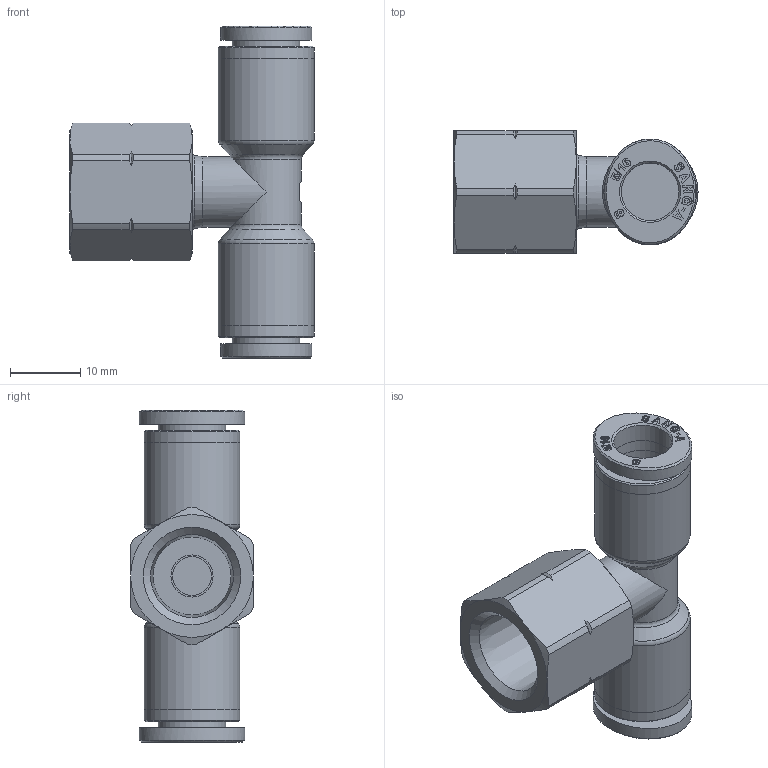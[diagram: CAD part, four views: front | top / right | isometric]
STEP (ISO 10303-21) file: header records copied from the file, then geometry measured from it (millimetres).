
FILE_DESCRIPTION((''),'2;1');
FILE_NAME('C:\Users\user0117\Desktop\김진일\G-FITTING INCH\5-16\PDF\G-FITTING INCH (STEP)\GPTF 5_16-N02U.stp','2020-04-22T08:48:05',('user0117'),(''),'Autodesk Inventor 2013','Autodesk Inventor 2013','');
FILE_SCHEMA(('AUTOMOTIVE_DESIGN { 1 0 10303 214 1 1 1 1 }'));
Length unit declared in the file: millimetre
Products named in the file (6): GPTF 5_16-N02U; GPLF BODY 5_16-N02U(BRASS); GPT BODY-08(PLASTIC); G-COLLAR 5-16L; COLLAR G08L; SLEEVE G08
Assembly tree (6 placements, depth 3):
  GPTF 5_16-N02U
    GPLF BODY 5_16-N02U(BRASS)
    GPT BODY-08(PLASTIC)
    G-COLLAR 5-16L  x2
      COLLAR G08L
      SLEEVE G08
Bounding box: 34.7 x 17.46 x 47.2 mm (x, y, z)
Volume: 7687.5 mm3; surface area: 6534.4 mm2
Topology: 6 solids, 6 shells, 817 faces, 2274 edges, 1510 vertices
Faces by surface type: plane 696, cylinder 41, bspline 40, cone 35, torus 5
Full cylindrical faces by diameter (mm): 5.5 x1, 6 x1, 8.2 x6, 8.8 x1, 9.6 x2, 10 x1, 13.6 x4
Entity records: 14294 total; most frequent: CARTESIAN_POINT 3004, ORIENTED_EDGE 2382, DIRECTION 2149, EDGE_CURVE 1191, VECTOR 1003, LINE 1003, VERTEX_POINT 803, AXIS2_PLACEMENT_3D 573
